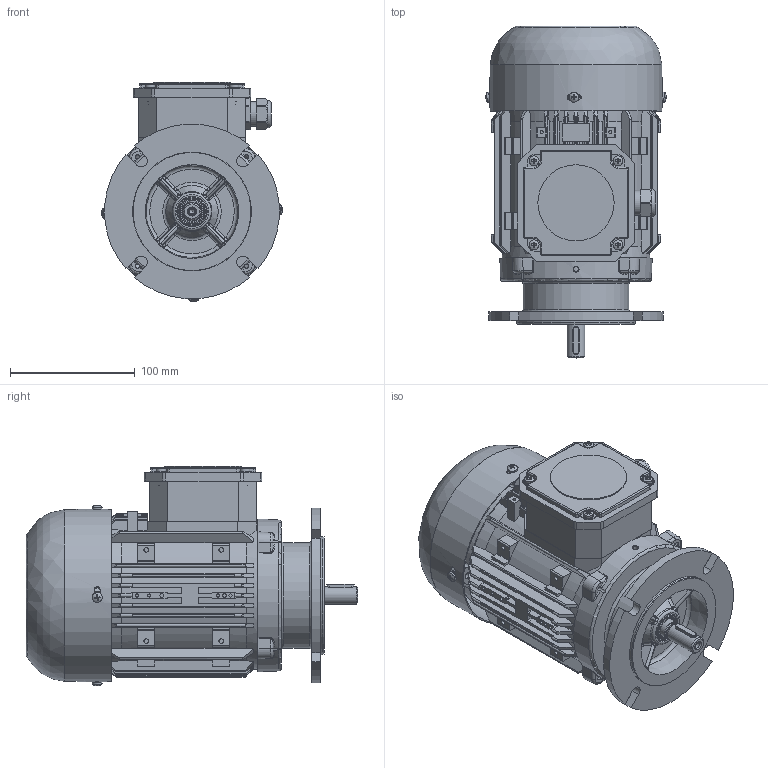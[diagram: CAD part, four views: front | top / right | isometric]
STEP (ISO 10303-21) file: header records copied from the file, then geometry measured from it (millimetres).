
FILE_DESCRIPTION(/* description */ (''),/* implementation_level */ '2;1');
FILE_NAME(/* name */ 'OUTLOOK VIEW QH71 FA B5 - REDUCED FF115 SPL.stp',/* time_stamp */ '2021-09-21T11:45:18+03:00',/* author */ (''),/* organization */ (''),/* preprocessor_version */ 'ST-DEVELOPER v16',/* originating_system */ 'SIEMENS PLM Software NX 11.0',/* authorisation */ '');
FILE_SCHEMA (('AUTOMOTIVE_DESIGN { 1 0 10303 214 3 1 1 1 }'));
Products named in the file (1): 260652D491E0rvpt
Bounding box: 144.59 x 265.66 x 175.79 mm (x, y, z)
Volume: 717984.5 mm3; surface area: 446629.9 mm2
Topology: 48 solids, 54 shells, 2699 faces, 7234 edges, 4653 vertices
Faces by surface type: plane 1179, cylinder 741, bspline 304, cone 280, torus 140, sphere 34, extrusion 21
Full cylindrical faces by diameter (mm): 1.7 x2, 2.5 x12, 3 x4, 3.15 x1, 3.3 x9, 3.65 x12, 3.7 x3, 4 x9, 4.2 x5, 4.5 x4, 4.6 x2, 4.65 x4, 4.8 x4, 5 x4, 5.1 x1, 5.3 x1, 5.5 x1, 8 x9, 13 x1, 13.4 x1, 14 x2, 14.3 x1, 14.4 x2, 15 x6, 15.2 x1, 15.5 x1, 16.9 x1, 18 x2, 18.5 x1, 19 x1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
Entity records: 93747 total; most frequent: CARTESIAN_POINT 29246, ORIENTED_EDGE 13376, DIRECTION 12196, EDGE_CURVE 6688, AXIS2_PLACEMENT_3D 4578, VERTEX_POINT 4547, EDGE_LOOP 3315, VECTOR 3040
